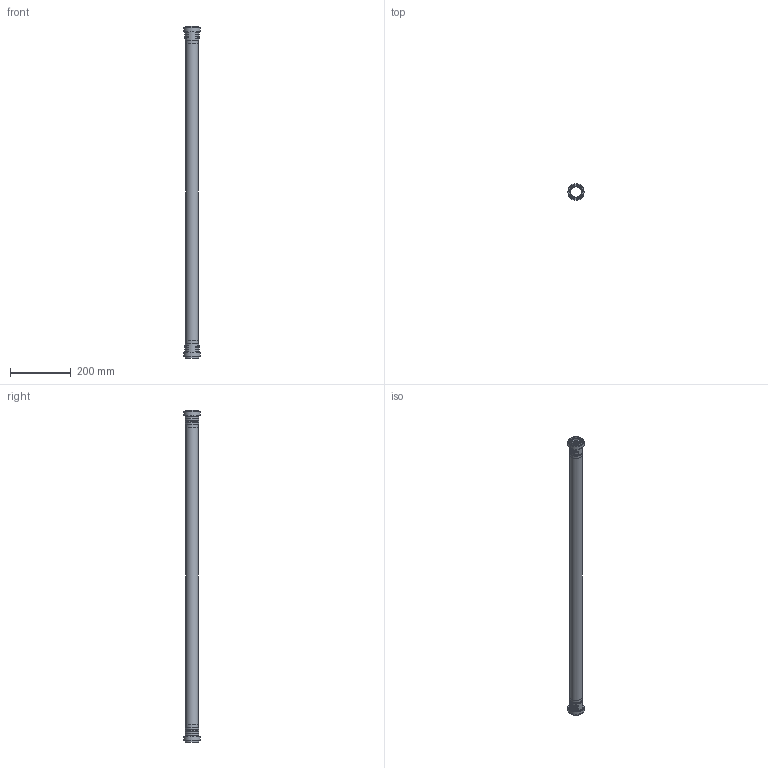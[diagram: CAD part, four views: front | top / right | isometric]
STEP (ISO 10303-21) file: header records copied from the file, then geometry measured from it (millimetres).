
FILE_DESCRIPTION(/* description */ (''),/* implementation_level */ '2;1');
FILE_NAME(/* name */ 'Z:\Geberit\Export\NewStep\Rohr2Muffen_Iassembly\stp\390111.stp',/* time_stamp */ '2014-04-03T17:48:15+02:00',/* author */ ('ML'),/* organization */ (''),/* preprocessor_version */ 'ST-DEVELOPER v15.2',/* originating_system */ 'Autodesk Inventor 2014',/* authorisation */ '');
FILE_SCHEMA (('AUTOMOTIVE_DESIGN { 1 0 10303 214 3 1 1 }'));
Length unit declared in the file: millimetre
Products named in the file (3): 861531; 861581ohne; 390111
Bounding box: 53.5 x 53.5 x 1094.6 mm (x, y, z)
Volume: 277330.7 mm3; surface area: 279178.6 mm2
Topology: 3 solids, 3 shells, 88 faces, 198 edges, 136 vertices
Faces by surface type: torus 48, cylinder 20, plane 18, cone 2
Full cylindrical faces by diameter (mm): 36.15 x3, 40.15 x3, 40.8 x4, 42.8 x2, 44.8 x4, 49.5 x2, 53.5 x2
Entity records: 1990 total; most frequent: CARTESIAN_POINT 960, DIRECTION 180, ORIENTED_EDGE 172, AXIS2_PLACEMENT_3D 90, EDGE_CURVE 86, EDGE_LOOP 76, VERTEX_POINT 70, B_SPLINE_CURVE_WITH_KNOTS 48
